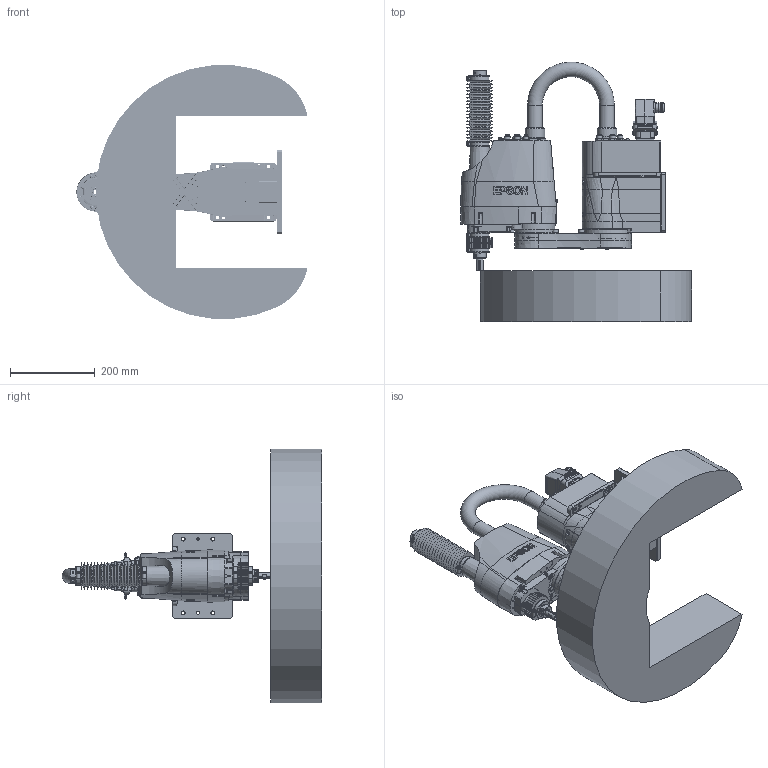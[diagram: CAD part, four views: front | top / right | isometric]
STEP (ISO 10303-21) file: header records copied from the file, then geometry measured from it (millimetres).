
FILE_DESCRIPTION( ( 'STEP AP214' ), '1' );
FILE_NAME( 'C:/Users/9607552/Desktop/GX4-A/GX4-A301CMA-W.stp', '2023-04-07T04:48:15', ( '' ), ( '' ), ' ', 'PARTsolutions', ' ' );
FILE_SCHEMA( ( 'AUTOMOTIVE_DESIGN { 1 0 10303 214 1 1 1 1 }' ) );
Length unit declared in the file: millimetre
Products named in the file (10): GX4-A301CMA-W; _A301CM-b; _A301SM_J1_ARM; _A251S-a; _A301SM_CONDUIT; _A251C; _A251C-long; _A251C-short; _Angle; _GX4-28_WS
Assembly tree (9 placements, depth 2):
  GX4-A301CMA-W
    _A301CM-b
    _A301SM_J1_ARM
    _A251S-a
    _A301SM_CONDUIT
    _A251C
    _A251C-long
    _A251C-short
    _Angle
    _GX4-28_WS
Bounding box: 544.9 x 612.31 x 597.72 mm (x, y, z)
Volume: 26664542.3 mm3; surface area: 1526515.9 mm2
Topology: 9 solids, 9 shells, 3852 faces, 9633 edges, 6279 vertices
Faces by surface type: plane 2256, cylinder 1016, cone 389, torus 101, bspline 89, sphere 1
Full cylindrical faces by diameter (mm): 1 x30, 1.13 x55, 1.18 x55, 2.013 x4, 2.459 x4, 2.5 x16, 3 x46, 3.2 x3, 3.242 x1, 3.3 x32, 3.4 x32, 3.5 x12, 4 x12, 4.5 x20, 4.8 x8, 4.917 x4, 5.34 x8, 5.4 x10, 5.5 x24, 5.6 x4, 5.68 x4, 6 x7, 6.5 x12, 6.647 x7, 6.8 x4, 7 x37, 7.647 x4, 8 x12, 9 x8, 9.2 x4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
Entity records: 146384 total; most frequent: CARTESIAN_POINT 28772, ORIENTED_EDGE 17144, DIRECTION 17020, EDGE_CURVE 8572, AXIS2_PLACEMENT_3D 6451, VERTEX_POINT 6131, EDGE_LOOP 5436, FACE_OUTER_BOUND 4497
